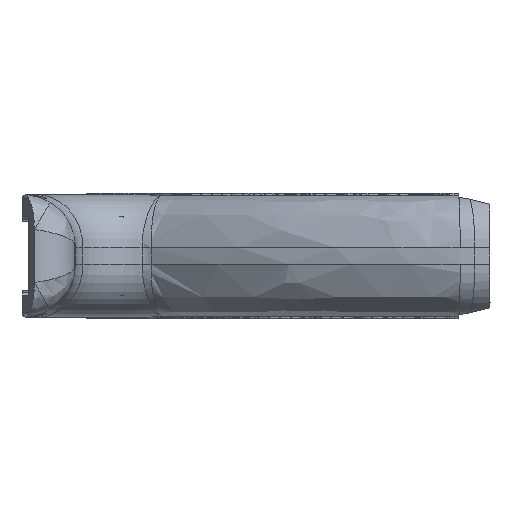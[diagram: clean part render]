
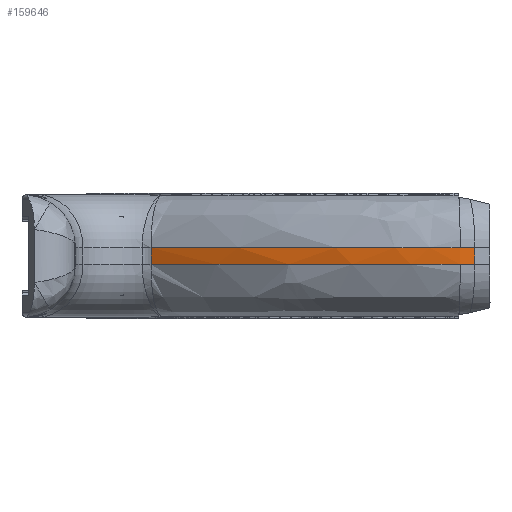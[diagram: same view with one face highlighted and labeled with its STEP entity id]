
A CAD part, left-side view. The second image highlights one B-rep face of the part: STEP entity #159646.
In plain terms, the highlighted free-form (B-spline) face has degree [3, 1] with [22, 2] control points.
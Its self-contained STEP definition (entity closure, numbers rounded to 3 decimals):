
#433=B_SPLINE_SURFACE_WITH_KNOTS('',3,1,((#253703,#253704),(#253705,#253706),
(#253707,#253708),(#253709,#253710),(#253711,#253712),(#253713,#253714),
(#253715,#253716),(#253717,#253718),(#253719,#253720),(#253721,#253722),
(#253723,#253724),(#253725,#253726),(#253727,#253728),(#253729,#253730),
(#253731,#253732),(#253733,#253734),(#253735,#253736),(#253737,#253738),
(#253739,#253740),(#253741,#253742),(#253743,#253744),(#253745,#253746)),
 .UNSPECIFIED.,.F.,.F.,.F.,(4,3,3,3,3,3,3,4),(2,2),(0.136,0.287,
0.413,0.559,0.673,0.855,
1.,1.778),(0.,2.9),.UNSPECIFIED.);
#994=B_SPLINE_CURVE_WITH_KNOTS('',3,(#252480,#252481,#252482,#252483,#252484,
#252485,#252486,#252487,#252488,#252489,#252490,#252491,#252492,#252493,
#252494,#252495),.UNSPECIFIED.,.F.,.F.,(4,1,1,1,1,1,1,1,1,1,1,1,1,4),(-7.333,
-7.126,-6.592,-6.058,-5.525,
-4.991,-3.39,-3.123,-2.857,-2.323,
-1.256,-0.722,-0.455,-0.189),
 .UNSPECIFIED.);
#1018=B_SPLINE_CURVE_WITH_KNOTS('',3,(#253237,#253238,#253239,#253240,#253241,
#253242,#253243,#253244,#253245,#253246,#253247,#253248,#253249,#253250,
#253251,#253252),.UNSPECIFIED.,.F.,.F.,(4,1,1,1,1,1,1,1,1,1,1,1,1,4),(-9.688,
-9.421,-9.154,-8.62,-8.087,
-7.553,-7.019,-5.418,-5.063,
-4.351,-3.818,-3.284,-2.75,
-2.543),.UNSPECIFIED.);
#1021=B_SPLINE_CURVE_WITH_KNOTS('',3,(#253291,#253292,#253293,#253294),
 .UNSPECIFIED.,.F.,.F.,(4,4),(0.,0.4),.UNSPECIFIED.);
#1024=B_SPLINE_CURVE_WITH_KNOTS('',3,(#253392,#253393,#253394,#253395,#253396,
#253397,#253398,#253399),.UNSPECIFIED.,.F.,.F.,(4,1,1,1,1,4),(-0.188,
-0.081,-0.054,-0.027,-0.013,
0.),.UNSPECIFIED.);
#1030=B_SPLINE_CURVE_WITH_KNOTS('',3,(#253589,#253590,#253591,#253592,#253593,
#253594,#253595,#253596,#253597),.UNSPECIFIED.,.F.,.F.,(4,1,1,1,1,1,4),
(-0.188,-0.175,-0.162,-0.135,
-0.108,-0.054,0.),
 .UNSPECIFIED.);
#9822=FACE_OUTER_BOUND('',#18891,.T.);
#18891=EDGE_LOOP('',(#141554,#141555,#141556,#141557,#141558,#141559));
#40033=LINE('',#253693,#61495);
#61495=VECTOR('',#205368,10.);
#76139=VERTEX_POINT('',#252471);
#76140=VERTEX_POINT('',#252479);
#76170=VERTEX_POINT('',#253234);
#76171=VERTEX_POINT('',#253236);
#76179=VERTEX_POINT('',#253391);
#76215=VERTEX_POINT('',#253587);
#97992=EDGE_CURVE('',#76139,#76140,#994,.T.);
#98041=EDGE_CURVE('',#76170,#76171,#1018,.T.);
#98049=EDGE_CURVE('',#76171,#76139,#1021,.T.);
#98054=EDGE_CURVE('',#76140,#76179,#1024,.T.);
#98097=EDGE_CURVE('',#76215,#76170,#1030,.T.);
#98101=EDGE_CURVE('',#76179,#76215,#40033,.T.);
#141554=ORIENTED_EDGE('',*,*,#98049,.F.);
#141555=ORIENTED_EDGE('',*,*,#98041,.F.);
#141556=ORIENTED_EDGE('',*,*,#98097,.F.);
#141557=ORIENTED_EDGE('',*,*,#98101,.F.);
#141558=ORIENTED_EDGE('',*,*,#98054,.F.);
#141559=ORIENTED_EDGE('',*,*,#97992,.F.);
#159646=ADVANCED_FACE('',(#9822),#433,.T.);
#205368=DIRECTION('',(0.,0.,-1.));
#252471=CARTESIAN_POINT('',(-65.926,18.872,-17.5));
#252479=CARTESIAN_POINT('',(-90.866,-54.408,-17.5));
#252480=CARTESIAN_POINT('Ctrl Pts',(-65.928,18.875,
-17.5));
#252481=CARTESIAN_POINT('Ctrl Pts',(-66.185,18.41,
-17.5));
#252482=CARTESIAN_POINT('Ctrl Pts',(-67.205,16.636,
-17.5));
#252483=CARTESIAN_POINT('Ctrl Pts',(-69.513,12.961,-17.5));
#252484=CARTESIAN_POINT('Ctrl Pts',(-72.502,7.859,
-17.5));
#252485=CARTESIAN_POINT('Ctrl Pts',(-75.244,2.685,
-17.5));
#252486=CARTESIAN_POINT('Ctrl Pts',(-79.441,-6.086,
-17.5));
#252487=CARTESIAN_POINT('Ctrl Pts',(-82.622,-14.129,
-17.5));
#252488=CARTESIAN_POINT('Ctrl Pts',(-85.043,-21.501,
-17.5));
#252489=CARTESIAN_POINT('Ctrl Pts',(-86.186,-25.216,
-17.5));
#252490=CARTESIAN_POINT('Ctrl Pts',(-88.005,-31.808,
-17.5));
#252491=CARTESIAN_POINT('Ctrl Pts',(-89.635,-39.501,
-17.5));
#252492=CARTESIAN_POINT('Ctrl Pts',(-90.546,-46.606,
-17.5));
#252493=CARTESIAN_POINT('Ctrl Pts',(-90.844,-50.871,
-17.5));
#252494=CARTESIAN_POINT('Ctrl Pts',(-90.895,-53.137,
-17.5));
#252495=CARTESIAN_POINT('Ctrl Pts',(-90.866,-54.408,
-17.5));
#253234=CARTESIAN_POINT('',(-90.866,-54.408,-21.5));
#253236=CARTESIAN_POINT('',(-65.926,18.872,-21.5));
#253237=CARTESIAN_POINT('Ctrl Pts',(-90.866,-54.408,
-21.5));
#253238=CARTESIAN_POINT('Ctrl Pts',(-90.895,-53.137,-21.5));
#253239=CARTESIAN_POINT('Ctrl Pts',(-90.844,-50.871,
-21.5));
#253240=CARTESIAN_POINT('Ctrl Pts',(-90.546,-46.608,
-21.5));
#253241=CARTESIAN_POINT('Ctrl Pts',(-89.896,-41.528,
-21.5));
#253242=CARTESIAN_POINT('Ctrl Pts',(-88.819,-35.66,
-21.5));
#253243=CARTESIAN_POINT('Ctrl Pts',(-87.487,-29.921,-21.5));
#253244=CARTESIAN_POINT('Ctrl Pts',(-84.882,-20.511,
-21.5));
#253245=CARTESIAN_POINT('Ctrl Pts',(-81.832,-12.033,
-21.5));
#253246=CARTESIAN_POINT('Ctrl Pts',(-78.033,-3.166,
-21.5));
#253247=CARTESIAN_POINT('Ctrl Pts',(-75.546,2.109,
-21.5));
#253248=CARTESIAN_POINT('Ctrl Pts',(-72.503,7.858,
-21.5));
#253249=CARTESIAN_POINT('Ctrl Pts',(-69.511,12.962,
-21.5));
#253250=CARTESIAN_POINT('Ctrl Pts',(-67.205,16.635,
-21.5));
#253251=CARTESIAN_POINT('Ctrl Pts',(-66.186,18.408,
-21.5));
#253252=CARTESIAN_POINT('Ctrl Pts',(-65.929,18.873,
-21.5));
#253291=CARTESIAN_POINT('Ctrl Pts',(-65.926,18.872,-21.5));
#253292=CARTESIAN_POINT('Ctrl Pts',(-65.926,18.872,-20.167));
#253293=CARTESIAN_POINT('Ctrl Pts',(-65.926,18.872,-18.833));
#253294=CARTESIAN_POINT('Ctrl Pts',(-65.926,18.872,-17.5));
#253391=CARTESIAN_POINT('',(-90.597,-57.895,-17.5));
#253392=CARTESIAN_POINT('Ctrl Pts',(-90.866,-54.408,
-17.5));
#253393=CARTESIAN_POINT('Ctrl Pts',(-90.855,-54.921,
-17.5));
#253394=CARTESIAN_POINT('Ctrl Pts',(-90.831,-55.584,
-17.5));
#253395=CARTESIAN_POINT('Ctrl Pts',(-90.757,-56.55,
-17.5));
#253396=CARTESIAN_POINT('Ctrl Pts',(-90.713,-57.003,
-17.5));
#253397=CARTESIAN_POINT('Ctrl Pts',(-90.661,-57.444,
-17.5));
#253398=CARTESIAN_POINT('Ctrl Pts',(-90.625,-57.711,
-17.5));
#253399=CARTESIAN_POINT('Ctrl Pts',(-90.597,-57.895,
-17.5));
#253587=CARTESIAN_POINT('',(-90.597,-57.895,-21.5));
#253589=CARTESIAN_POINT('Ctrl Pts',(-90.597,-57.895,
-21.5));
#253590=CARTESIAN_POINT('Ctrl Pts',(-90.625,-57.711,
-21.5));
#253591=CARTESIAN_POINT('Ctrl Pts',(-90.661,-57.444,
-21.5));
#253592=CARTESIAN_POINT('Ctrl Pts',(-90.713,-57.003,
-21.5));
#253593=CARTESIAN_POINT('Ctrl Pts',(-90.756,-56.551,
-21.5));
#253594=CARTESIAN_POINT('Ctrl Pts',(-90.806,-55.905,
-21.5));
#253595=CARTESIAN_POINT('Ctrl Pts',(-90.844,-55.192,
-21.5));
#253596=CARTESIAN_POINT('Ctrl Pts',(-90.861,-54.664,
-21.5));
#253597=CARTESIAN_POINT('Ctrl Pts',(-90.866,-54.408,
-21.5));
#253693=CARTESIAN_POINT('',(-90.597,-57.895,-5.));
#253703=CARTESIAN_POINT('Ctrl Pts',(-90.597,-57.895,
-5.));
#253704=CARTESIAN_POINT('Ctrl Pts',(-90.597,-57.895,
-34.));
#253705=CARTESIAN_POINT('Ctrl Pts',(-91.015,-55.162,
-5.));
#253706=CARTESIAN_POINT('Ctrl Pts',(-91.015,-55.162,
-34.));
#253707=CARTESIAN_POINT('Ctrl Pts',(-91.009,-50.48,
-5.));
#253708=CARTESIAN_POINT('Ctrl Pts',(-91.009,-50.48,
-34.));
#253709=CARTESIAN_POINT('Ctrl Pts',(-90.256,-44.48,
-5.));
#253710=CARTESIAN_POINT('Ctrl Pts',(-90.256,-44.48,
-34.));
#253711=CARTESIAN_POINT('Ctrl Pts',(-89.633,-39.518,
-5.));
#253712=CARTESIAN_POINT('Ctrl Pts',(-89.633,-39.518,
-34.));
#253713=CARTESIAN_POINT('Ctrl Pts',(-88.483,-33.652,
-5.));
#253714=CARTESIAN_POINT('Ctrl Pts',(-88.483,-33.652,
-34.));
#253715=CARTESIAN_POINT('Ctrl Pts',(-86.815,-27.531,
-5.));
#253716=CARTESIAN_POINT('Ctrl Pts',(-86.815,-27.531,
-34.));
#253717=CARTESIAN_POINT('Ctrl Pts',(-84.861,-20.365,-5.));
#253718=CARTESIAN_POINT('Ctrl Pts',(-84.861,-20.365,-34.));
#253719=CARTESIAN_POINT('Ctrl Pts',(-82.172,-12.873,
-5.));
#253720=CARTESIAN_POINT('Ctrl Pts',(-82.172,-12.873,
-34.));
#253721=CARTESIAN_POINT('Ctrl Pts',(-79.481,-6.555,
-5.));
#253722=CARTESIAN_POINT('Ctrl Pts',(-79.481,-6.555,
-34.));
#253723=CARTESIAN_POINT('Ctrl Pts',(-77.395,-1.655,
-5.));
#253724=CARTESIAN_POINT('Ctrl Pts',(-77.395,-1.655,
-34.));
#253725=CARTESIAN_POINT('Ctrl Pts',(-75.332,2.538,
-5.));
#253726=CARTESIAN_POINT('Ctrl Pts',(-75.332,2.538,
-34.));
#253727=CARTESIAN_POINT('Ctrl Pts',(-73.499,5.95,-5.));
#253728=CARTESIAN_POINT('Ctrl Pts',(-73.499,5.95,-34.));
#253729=CARTESIAN_POINT('Ctrl Pts',(-70.581,11.381,
-5.));
#253730=CARTESIAN_POINT('Ctrl Pts',(-70.581,11.381,
-34.));
#253731=CARTESIAN_POINT('Ctrl Pts',(-68.258,14.887,
-5.));
#253732=CARTESIAN_POINT('Ctrl Pts',(-68.258,14.887,
-34.));
#253733=CARTESIAN_POINT('Ctrl Pts',(-66.699,17.526,
-5.));
#253734=CARTESIAN_POINT('Ctrl Pts',(-66.699,17.526,
-34.));
#253735=CARTESIAN_POINT('Ctrl Pts',(-65.448,19.643,
-5.));
#253736=CARTESIAN_POINT('Ctrl Pts',(-65.448,19.643,
-34.));
#253737=CARTESIAN_POINT('Ctrl Pts',(-64.666,21.216,
-5.));
#253738=CARTESIAN_POINT('Ctrl Pts',(-64.666,21.216,
-34.));
#253739=CARTESIAN_POINT('Ctrl Pts',(-64.356,22.442,
-5.));
#253740=CARTESIAN_POINT('Ctrl Pts',(-64.356,22.442,
-34.));
#253741=CARTESIAN_POINT('Ctrl Pts',(-62.823,28.484,
-5.));
#253742=CARTESIAN_POINT('Ctrl Pts',(-62.823,28.484,
-34.));
#253743=CARTESIAN_POINT('Ctrl Pts',(-61.291,34.526,-5.));
#253744=CARTESIAN_POINT('Ctrl Pts',(-61.291,34.526,-34.));
#253745=CARTESIAN_POINT('Ctrl Pts',(-59.759,40.567,
-5.));
#253746=CARTESIAN_POINT('Ctrl Pts',(-59.759,40.567,
-34.));
